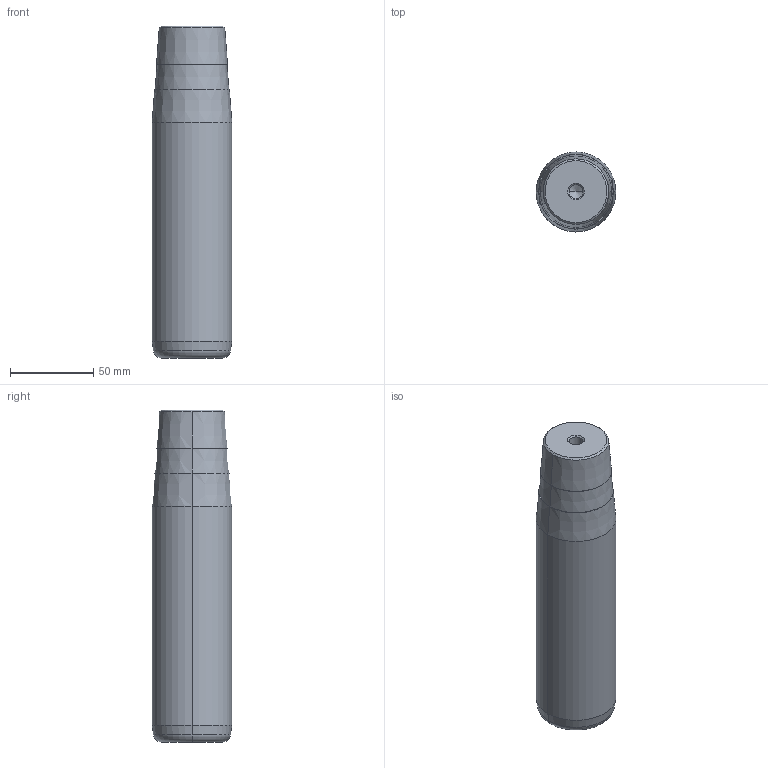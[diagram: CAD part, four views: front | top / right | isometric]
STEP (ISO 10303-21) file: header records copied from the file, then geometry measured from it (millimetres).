
FILE_DESCRIPTION(('CATIA V5 STEP Exchange'),'2;1');
FILE_NAME('C:\Users\Utente\Desktop\IO LAVORO\3D X SITO CF\X SITO\722\722-48x160x200.stp','2021-01-08T15:04:56+00:00',('none'),('none'),'CATIA Version 5 Release 20 GA (IN-10)','CATIA V5 STEP AP203','none');
FILE_SCHEMA(('CONFIG_CONTROL_DESIGN'));
Length unit declared in the file: millimetre
Products named in the file (1): 722-48x160x200
Bounding box: 48 x 48 x 200 mm (x, y, z)
Volume: 339083.6 mm3; surface area: 33294.1 mm2
Topology: 1 solids, 1 shells, 32 faces, 66 edges, 34 vertices
Faces by surface type: cone 22, cylinder 6, plane 2, torus 2
Entity records: 854 total; most frequent: CARTESIAN_POINT 175, DIRECTION 124, ORIENTED_EDGE 124, AXIS2_PLACEMENT_3D 65, EDGE_CURVE 62, EDGE_LOOP 34, VERTEX_POINT 34, ADVANCED_FACE 32
